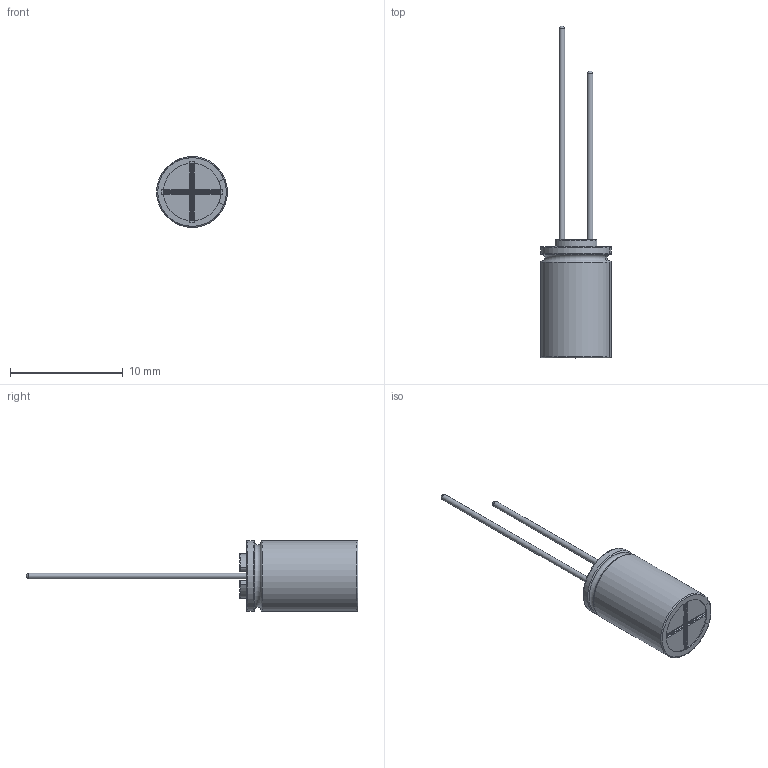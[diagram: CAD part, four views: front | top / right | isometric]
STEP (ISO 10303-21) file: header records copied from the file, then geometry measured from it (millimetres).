
FILE_DESCRIPTION(/* description */ (''),/* implementation_level */ '2;1');
FILE_NAME(/* name */ '6.3x10.5_Lead.stp',/* time_stamp */ '2017-09-05T13:47:38+09:00',/* author */ (''),/* organization */ (''),/* preprocessor_version */ 'ST-DEVELOPER v16',/* originating_system */ 'SIEMENS PLM Software NX 11.0',/* authorisation */ '');
FILE_SCHEMA (('AUTOMOTIVE_DESIGN { 1 0 10303 214 3 1 1 1 }'));
Length unit declared in the file: millimetre
Products named in the file (1): 6.3x10.5_Lead_0
Bounding box: 6.29 x 29.5 x 6.3 mm (x, y, z)
Volume: 312.9 mm3; surface area: 760.8 mm2
Topology: 3 solids, 3 shells, 120 faces, 296 edges, 185 vertices
Faces by surface type: cylinder 52, plane 31, torus 27, sphere 6, bspline 4
Full cylindrical faces by diameter (mm): 0.5 x2, 6.1 x2
Entity records: 4235 total; most frequent: CARTESIAN_POINT 701, DIRECTION 684, ORIENTED_EDGE 568, EDGE_CURVE 284, AXIS2_PLACEMENT_3D 283, VERTEX_POINT 180, CIRCLE 158, EDGE_LOOP 130
